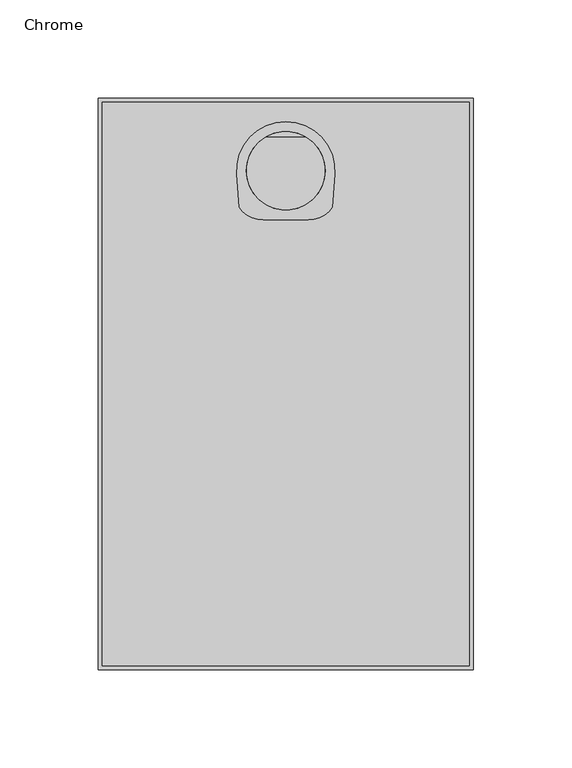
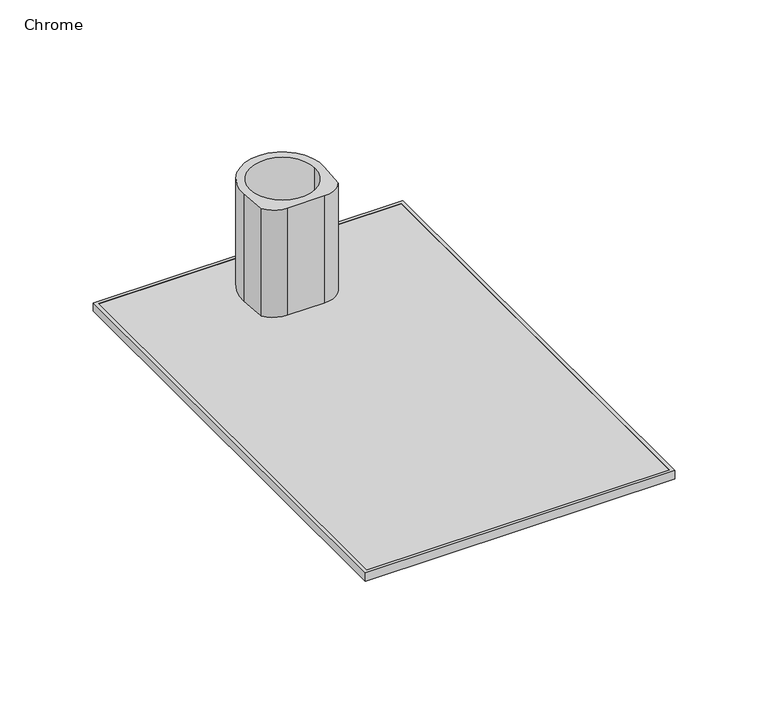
"""IFC4 building model written with IfcOpenShell, lengths in millimetres: flow terminal geometry, z_PlumFixt_Billi_Font and 70mm Riser : Chrome."""

from ifc_helpers import new_model, si_unit, point, frame, frame_2d, origin, place, context, project, spatial, polyline, circle_curve, ellipse_curve, trimmed, segment, composite_curve, outline, extrude, source, transform, mapped, element, save
from ifc_brep_helpers import plane_surface, cylinder_surface, revolved_surface, advanced_brep


def chrome_988dec97(model_context):
    return source(origin(), model_context, "Body", "SolidModel", [
        advanced_brep(
        [(-22.7552944, 76.1913164, 70.0), (-10.4999952, 69.8404613, 70.0), (12.4999952, 69.8404608, 70.0), (24.7552944, 76.1913164, 70.0), (25.9391013, 93.1205431, 70.0), (-23.9391013, 93.1205431, 70.0), (21.0, 94.8404608, 70.0), (-19.0, 94.8404608, 70.0), (-22.7552944, 76.1913164, 0.0), (-23.9391013, 93.1205431, 0.0), (25.9391013, 93.1205431, 0.0), (24.7552944, 76.1913164, 0.0), (12.4999952, 69.8404613, 0.0), (-10.4999952, 69.8404608, 0.0), (21.0, 94.8404608, 0.0), (-19.0, 94.8404608, 0.0)],
        [
            (0, 1, circle_curve(frame((-10.4999952, 84.8404666, 70.0), z_axis=(0.0, 0.0, 1.0), x_axis=(-1.0, 0.0, 0.0)), 15.0000053)),
            (1, 2),
            (2, 3, circle_curve(frame((12.4999952, 84.8404666, 70.0), z_axis=(0.0, 0.0, 1.0), x_axis=(-1.0, 0.0, 0.0)), 15.0000053)),
            (3, 4),
            (4, 5, circle_curve(frame((1.0, 94.864455, 70.0), z_axis=(0.0, 0.0, 1.0), x_axis=(-1.0, 0.0, 0.0)), 25.0)),
            (5, 0),
            (6, 7, circle_curve(frame((1.0, 94.8404608, 70.0), z_axis=(0.0, 0.0, -1.0), x_axis=(-1.0, 0.0, 0.0)), 20.0)),
            (7, 6, circle_curve(frame((1.0, 94.8404608, 70.0), z_axis=(0.0, 0.0, -1.0), x_axis=(-1.0, 0.0, 0.0)), 20.0)),
            (8, 9),
            (9, 10, circle_curve(frame((1.0, 94.864455, 0.0), z_axis=(0.0, 0.0, -1.0), x_axis=(-1.0, 0.0, 0.0)), 25.0)),
            (10, 11),
            (11, 12, circle_curve(frame((12.4999952, 84.8404666, 0.0), z_axis=(0.0, 0.0, -1.0), x_axis=(-1.0, 0.0, 0.0)), 15.0000053)),
            (12, 13),
            (13, 8, circle_curve(frame((-10.4999952, 84.8404666, 0.0), z_axis=(0.0, 0.0, -1.0), x_axis=(-1.0, 0.0, 0.0)), 15.0000053)),
            (14, 15, circle_curve(frame((1.0, 94.8404608, 0.0), z_axis=(0.0, 0.0, 1.0), x_axis=(-1.0, 0.0, 0.0)), 20.0)),
            (15, 14, circle_curve(frame((1.0, 94.8404608, 0.0), z_axis=(0.0, 0.0, 1.0), x_axis=(-1.0, 0.0, 0.0)), 20.0)),
            (6, 14),
            (15, 7),
            (0, 8),
            (13, 1),
            (12, 2),
            (11, 3),
            (10, 4),
            (9, 5),
        ],
        [
            plane_surface(frame((-19.0, 94.8404608, 70.0), z_axis=(0.0, 0.0, 1.0), x_axis=(0.0, 1.0, 0.0))),
            plane_surface(frame((-19.0, 94.8404608, 0.0), z_axis=(0.0, 0.0, -1.0), x_axis=(0.0, -1.0, 0.0))),
            revolved_surface(polyline([(-19.0, 94.8404608, 0.0), (-19.0, 94.8404608, 70.0)]), (1.0, 94.8404608, 0.0), (0.0, 0.0, -1.0)),
            cylinder_surface(frame((-10.4999952, 84.8404666, 0.0), z_axis=(0.0, 0.0, 1.0), x_axis=(-1.0, 0.0, 0.0)), 15.0000053),
            plane_surface(frame((-10.4999952, 69.8404608, 70.0), z_axis=(0.0, -1.0, 0.0), x_axis=(0.0, 0.0, -1.0))),
            cylinder_surface(frame((12.4999952, 84.8404666, 0.0), z_axis=(0.0, 0.0, 1.0), x_axis=(-1.0, 0.0, 0.0)), 15.0000053),
            plane_surface(frame((24.7552944, 76.1913164, 70.0), z_axis=(0.9975640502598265, -0.0697564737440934, 0.0), x_axis=(0.0, 0.0, -1.0))),
            cylinder_surface(frame((1.0, 94.864455, 0.0), z_axis=(0.0, 0.0, 1.0), x_axis=(-1.0, 0.0, 0.0)), 25.0),
            plane_surface(frame((-23.9391013, 93.1205431, 70.0), z_axis=(-0.9975640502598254, -0.0697564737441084, 0.0), x_axis=(0.0, 0.0, -1.0))),
        ],
        [
            (0, [[1, 2, 3, 4, 5, 6], [7, 8]]),
            (1, [[9, 10, 11, 12, 13, 14], [15, 16]]),
            (2, [[-7, 17, -16, 18]]),
            (2, [[-8, -18, -15, -17]]),
            (3, [[-1, 19, -14, 20]]),
            (4, [[-2, -20, -13, 21]]),
            (5, [[-3, -21, -12, 22]]),
            (6, [[-4, -22, -11, 23]]),
            (7, [[-5, -23, -10, 24]]),
            (8, [[-6, -24, -9, -19]]),
        ],
    ),
        advanced_brep(
        [(76.6433025, 111.8933025, -18.0), (-74.6433025, 111.8933025, -18.0), (-74.6433025, -139.3933025, -18.0), (76.6433025, -139.3933025, -18.0), (21.0, -13.75, -18.0), (-19.0, -13.75, -18.0), (-75.6147367, 112.8647367, -20.0), (77.6147367, 112.8647367, -20.0), (77.6147367, -140.3647367, -20.0), (-75.6147367, -140.3647367, -20.0), (21.0, -13.75, -20.0), (-19.0, -13.75, -20.0), (-94.5, 131.75, -5.5), (-94.5, 131.75, 0.0), (96.5, 131.75, 0.0), (96.5, 131.75, -5.5), (-78.5070058, 115.7570058, -9.2059048), (-83.3366349, 120.5866349, -5.5), (85.3366349, 120.5866349, -5.5), (80.5070058, 115.7570058, -9.2059048), (-92.5, 129.75, 0.0), (-92.5, 129.75, -1.9884397), (94.5, 129.75, -1.9884397), (94.5, 129.75, 0.0), (96.5, -159.25, 0.0), (96.5, -159.25, -5.5), (85.3366349, -148.0866349, -5.5), (80.5070058, -143.2570058, -9.2059048), (94.5, -157.25, -1.9884397), (94.5, -157.25, 0.0), (-94.5, -159.25, 0.0), (-94.5, -159.25, -5.5), (-83.3366349, -148.0866349, -5.5), (-78.5070058, -143.2570058, -9.2059048), (-92.5, -157.25, -1.9884397), (-92.5, -157.25, 0.0), (76.6433025, 111.8933025, -1.9884397), (76.6433025, -139.3933025, -1.9884397), (-74.6433025, -139.3933025, -1.9884397), (-74.6433025, 111.8933025, -1.9884397)],
        [
            (0, 1),
            (1, 2),
            (2, 3),
            (3, 0),
            (4, 5, circle_curve(frame((1.0, -13.75, -18.0), z_axis=(0.0, 0.0, -1.0), x_axis=(-1.0, 0.0, 0.0)), 20.0)),
            (5, 4, circle_curve(frame((1.0, -13.75, -18.0), z_axis=(0.0, 0.0, -1.0), x_axis=(-1.0, 0.0, 0.0)), 20.0)),
            (6, 7),
            (7, 8),
            (8, 9),
            (9, 6),
            (10, 11, circle_curve(frame((1.0, -13.75, -20.0), z_axis=(0.0, 0.0, 1.0), x_axis=(-1.0, 0.0, 0.0)), 20.0)),
            (11, 10, circle_curve(frame((1.0, -13.75, -20.0), z_axis=(0.0, 0.0, 1.0), x_axis=(-1.0, 0.0, 0.0)), 20.0)),
            (12, 13),
            (13, 14),
            (14, 15),
            (15, 12),
            (16, 17, ellipse_curve(frame((-83.3366349, 120.5866349, -10.5), z_axis=(-0.7071067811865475, -0.7071067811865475, 0.0), x_axis=(0.7071067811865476, -0.7071067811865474, 0.0)), 7.0710678, 5.0)),
            (17, 18),
            (18, 19, ellipse_curve(frame((85.3366349, 120.5866349, -10.5), z_axis=(0.7071067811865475, -0.7071067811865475, 0.0), x_axis=(0.7071067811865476, 0.7071067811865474, 0.0)), 7.0710678, 5.0)),
            (19, 16),
            (19, 7),
            (6, 16),
            (20, 21),
            (21, 22),
            (22, 23),
            (23, 20),
            (14, 24),
            (24, 25),
            (25, 15),
            (18, 26),
            (26, 27, ellipse_curve(frame((85.3366349, -148.0866349, -10.5), z_axis=(-0.7071067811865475, -0.7071067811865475, 0.0), x_axis=(0.7071067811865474, -0.7071067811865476, 0.0)), 7.0710678, 5.0)),
            (27, 19),
            (27, 8),
            (22, 28),
            (28, 29),
            (29, 23),
            (24, 30),
            (30, 31),
            (31, 25),
            (26, 32),
            (32, 33, ellipse_curve(frame((-83.3366349, -148.0866349, -10.5), z_axis=(-0.7071067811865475, 0.7071067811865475, 0.0), x_axis=(-0.7071067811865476, -0.7071067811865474, 0.0)), 7.0710678, 5.0)),
            (33, 27),
            (33, 9),
            (28, 34),
            (34, 35),
            (35, 29),
            (13, 30),
            (35, 20),
            (12, 31),
            (17, 32),
            (16, 33),
            (21, 34),
            (36, 37),
            (37, 38),
            (38, 39),
            (39, 36),
            (39, 1),
            (0, 36),
            (3, 37),
            (2, 38),
            (4, 10),
            (11, 5),
        ],
        [
            plane_surface(frame((76.6433025, -139.3933025, -18.0), z_axis=(0.0, 0.0, 1.0), x_axis=(1.0, 0.0, 0.0))),
            plane_surface(frame((76.6433025, -139.3933025, -20.0), z_axis=(0.0, 0.0, -1.0), x_axis=(-1.0, 0.0, 0.0))),
            plane_surface(frame((-94.5, 131.75, 0.0), z_axis=(0.0, 1.0, 0.0), x_axis=(1.0, 0.0, 0.0))),
            revolved_surface(polyline([(90.33663489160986, 125.5866349, -10.5), (-88.33663489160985, 125.5866349, -10.5)]), (-94.5, 120.5866349, -10.5), (1.0, 0.0, 0.0)),
            plane_surface(frame((-78.5070058, 115.7570058, -9.2059048), z_axis=(0.0, 0.9659258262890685, -0.2588190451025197), x_axis=(1.0, 0.0, 0.0))),
            plane_surface(frame((-92.5, 129.75, -1.9884397), z_axis=(0.0, -1.0, 0.0), x_axis=(1.0, 0.0, 0.0))),
            plane_surface(frame((96.5, 131.75, 0.0), z_axis=(1.0, 0.0, 0.0), x_axis=(0.0, -1.0, 0.0))),
            revolved_surface(polyline([(90.3366349, -153.0866348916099, -10.5), (90.3366349, 125.58663489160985, -10.5)]), (85.3366349, 131.75, -10.5), (0.0, -1.0, 0.0)),
            plane_surface(frame((80.5070058, 115.7570058, -9.2059048), z_axis=(0.9659258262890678, 0.0, -0.25881904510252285), x_axis=(0.0, -1.0, 0.0))),
            plane_surface(frame((94.5, 129.75, -1.9884397), z_axis=(-1.0, 0.0, 0.0), x_axis=(0.0, -1.0, 0.0))),
            plane_surface(frame((96.5, -159.25, 0.0), z_axis=(0.0, -1.0, 0.0), x_axis=(-1.0, 0.0, 0.0))),
            revolved_surface(polyline([(-88.33663489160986, -153.0866349, -10.5), (90.33663489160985, -153.0866349, -10.5)]), (96.5, -148.0866349, -10.5), (-1.0, 0.0, 0.0)),
            plane_surface(frame((80.5070058, -143.2570058, -9.2059048), z_axis=(0.0, -0.9659258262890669, -0.25881904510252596), x_axis=(-1.0, 0.0, 0.0))),
            plane_surface(frame((94.5, -157.25, -1.9884397), z_axis=(0.0, 1.0, 0.0), x_axis=(-1.0, 0.0, 0.0))),
            plane_surface(frame((-92.5, -157.25, 0.0), z_axis=(0.0, 0.0, 1.0), x_axis=(0.0, 1.0, 0.0))),
            plane_surface(frame((-94.5, -159.25, 0.0), z_axis=(-1.0, 0.0, 0.0), x_axis=(0.0, 1.0, 0.0))),
            plane_surface(frame((-94.5, -159.25, -5.5), z_axis=(0.0, 0.0, -1.0), x_axis=(0.0, 1.0, 0.0))),
            revolved_surface(polyline([(-88.3366349, 125.58663489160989, -10.5), (-88.3366349, -153.08663489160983, -10.5)]), (-83.3366349, -159.25, -10.5), (0.0, 1.0, 0.0)),
            plane_surface(frame((-78.5070058, -143.2570058, -9.2059048), z_axis=(-0.9659258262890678, 0.0, -0.25881904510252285), x_axis=(0.0, 1.0, 0.0))),
            plane_surface(frame((-74.6433025, -139.3933025, -1.9884397), z_axis=(0.0, 0.0, 1.0), x_axis=(0.0, 1.0, 0.0))),
            plane_surface(frame((-92.5, -157.25, -1.9884397), z_axis=(1.0, 0.0, 0.0), x_axis=(0.0, 1.0, 0.0))),
            plane_surface(frame((-74.6433025, 111.8933025, -20.0), z_axis=(0.0, -1.0, 0.0), x_axis=(1.0, 0.0, 0.0))),
            plane_surface(frame((76.6433025, 111.8933025, -20.0), z_axis=(-1.0, 0.0, 0.0), x_axis=(0.0, -1.0, 0.0))),
            plane_surface(frame((76.6433025, -139.3933025, -20.0), z_axis=(0.0, 1.0, 0.0), x_axis=(-1.0, 0.0, 0.0))),
            plane_surface(frame((-74.6433025, -139.3933025, -20.0), z_axis=(1.0, 0.0, 0.0), x_axis=(0.0, 1.0, 0.0))),
            revolved_surface(polyline([(-19.0, -13.75, -20.0), (-19.0, -13.75, -18.0)]), (1.0, -13.75, -20.0), (0.0, 0.0, -1.0)),
        ],
        [
            (0, [[1, 2, 3, 4], [5, 6]]),
            (1, [[7, 8, 9, 10], [11, 12]]),
            (2, [[13, 14, 15, 16]]),
            (3, [[17, 18, 19, 20]]),
            (4, [[-20, 21, -7, 22]]),
            (5, [[23, 24, 25, 26]]),
            (6, [[-15, 27, 28, 29]]),
            (7, [[-19, 30, 31, 32]]),
            (8, [[-21, -32, 33, -8]]),
            (9, [[-25, 34, 35, 36]]),
            (10, [[-28, 37, 38, 39]]),
            (11, [[-31, 40, 41, 42]]),
            (12, [[-33, -42, 43, -9]]),
            (13, [[-35, 44, 45, 46]]),
            (14, [[-14, 47, -37, -27], [-26, -36, -46, 48]]),
            (15, [[-13, 49, -38, -47]]),
            (16, [[-16, -29, -39, -49], [-18, 50, -40, -30]]),
            (17, [[-17, 51, -41, -50]]),
            (18, [[-22, -10, -43, -51]]),
            (19, [[-24, 52, -44, -34], [53, 54, 55, 56]]),
            (20, [[-23, -48, -45, -52]]),
            (21, [[-56, 57, -1, 58]]),
            (22, [[-53, -58, -4, 59]]),
            (23, [[-54, -59, -3, 60]]),
            (24, [[-55, -60, -2, -57]]),
            (25, [[-5, 61, -12, 62]]),
            (25, [[-6, -62, -11, -61]]),
        ],
    ),
        extrude(outline(composite_curve([segment(trimmed(circle_curve(frame_2d((1.0, -13.75)), 22.0), [point((23.0, -13.75))], [point((-21.0, -13.75))], False, "CARTESIAN"), True, "CONTINUOUS"), segment(trimmed(circle_curve(frame_2d((1.0, -13.75)), 22.0), [point((-21.0, -13.75))], [point((23.0, -13.75))], False, "CARTESIAN"), True, "CONTINUOUS")], self_intersect=False), holes=[composite_curve([segment(trimmed(circle_curve(frame_2d((1.0, -13.75)), 20.0), [point((21.0, -13.75))], [point((-19.0, -13.75))], True, "CARTESIAN"), True, "CONTINUOUS"), segment(trimmed(circle_curve(frame_2d((1.0, -13.75)), 20.0), [point((-19.0, -13.75))], [point((21.0, -13.75))], True, "CARTESIAN"), True, "CONTINUOUS")], self_intersect=False)]), frame((0.0, 0.0, -35.0), z_axis=(0.0, 0.0, 1.0), x_axis=(1.0, 0.0, 0.0)), (0.0, 0.0, 1.0), 15.0),
        extrude(outline(polyline([(-92.5, -157.25), (-92.5, 129.75), (94.5, 129.75), (94.5, -157.25), (-92.5, -157.25)]), holes=[composite_curve([segment(trimmed(circle_curve(frame_2d((1.0, 94.8404608)), 20.0), [point((1.0, 74.8404608))], [point((1.0, 114.8404608))], True, "CARTESIAN"), True, "CONTINUOUS"), segment(trimmed(circle_curve(frame_2d((1.0, 94.8404608)), 20.0), [point((1.0, 114.8404608))], [point((1.0, 74.8404608))], True, "CARTESIAN"), True, "CONTINUOUS")], self_intersect=False)]), frame((0.0, 0.0, -1.1505737), z_axis=(0.0, 0.0, 1.0), x_axis=(1.0, 0.0, 0.0)), (0.0, 0.0, 1.0), 1.1505737),
    ])


if __name__ == "__main__":
    model = new_model("IFC4")
    model_context = context("Model", 3, world=origin())
    ifc_project = project(units=[si_unit("LENGTHUNIT", "METRE", prefix="MILLI")], contexts=[model_context])
    site = spatial("IfcSite", under=ifc_project)
    building = spatial("IfcBuilding", under=site)
    placement = place(None, origin())
    chrome_shape = chrome_988dec97(model_context)
    element("IfcFlowTerminal", 1, ObjectType="z_PlumFixt_Billi_Font and 70mm Riser : Chrome", at=placement, inside=building, context=model_context, shape_type="MappedRepresentation", body=[
        mapped(chrome_shape, transform((0.0, 0.0, 0.0), x_axis=(1.0, 0.0, 0.0), y_axis=(0.0, 1.0, 0.0), z_axis=(0.0, 0.0, 1.0))),
    ])
    save(model, "model.ifc")
